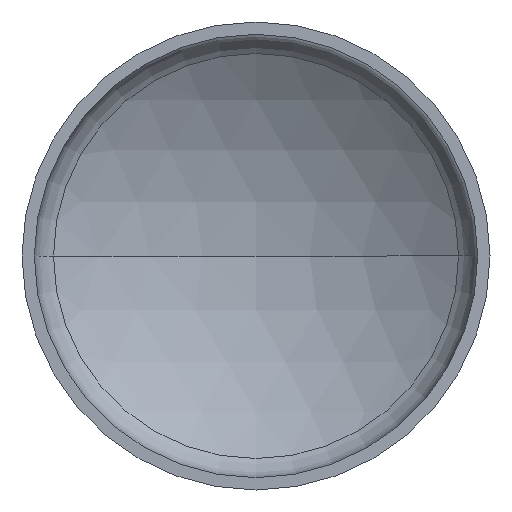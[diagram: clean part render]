
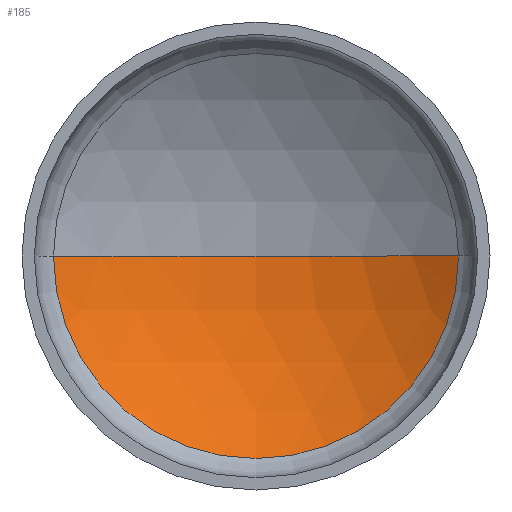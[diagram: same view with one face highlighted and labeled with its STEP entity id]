
A CAD part, front view. The second image highlights one B-rep face of the part: STEP entity #185.
In plain terms, the highlighted spherical face has radius 56.88 mm.
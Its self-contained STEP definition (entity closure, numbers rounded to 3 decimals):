
#1 = VERTEX_POINT ( 'NONE', #293 ) ;
#8 = DIRECTION ( 'NONE',  ( -1., 0., 0. ) ) ;
#9 = CARTESIAN_POINT ( 'NONE',  ( 0., 17., 0. ) ) ;
#43 = DIRECTION ( 'NONE',  ( 0., 0., 1. ) ) ;
#45 = AXIS2_PLACEMENT_3D ( 'NONE', #331, #43, #48 ) ;
#48 = DIRECTION ( 'NONE',  ( 1., 0., 0. ) ) ;
#50 = DIRECTION ( 'NONE',  ( -1., 0., 0. ) ) ;
#55 = CARTESIAN_POINT ( 'NONE',  ( 0., -39.88, 0. ) ) ;
#65 = EDGE_CURVE ( 'NONE', #1, #261, #243, .T. ) ;
#73 = CARTESIAN_POINT ( 'NONE',  ( 0., -39.88, 0. ) ) ;
#85 = AXIS2_PLACEMENT_3D ( 'NONE', #73, #266, #206 ) ;
#113 = DIRECTION ( 'NONE',  ( 0., 1., 0. ) ) ;
#114 = EDGE_CURVE ( 'NONE', #263, #261, #312, .T. ) ;
#127 = EDGE_CURVE ( 'NONE', #263, #1, #265, .T. ) ;
#131 = ORIENTED_EDGE ( 'NONE', *, *, #127, .F. ) ;
#179 = CARTESIAN_POINT ( 'NONE',  ( 32.928, 6.5, 0. ) ) ;
#185 = ADVANCED_FACE ( 'NONE', ( #280 ), #217, .F. ) ;
#206 = DIRECTION ( 'NONE',  ( -1., 0., 0. ) ) ;
#217 = SPHERICAL_SURFACE ( 'NONE', #375, 56.88 ) ;
#230 = ORIENTED_EDGE ( 'NONE', *, *, #65, .F. ) ;
#242 = CARTESIAN_POINT ( 'NONE',  ( 0., 6.5, 0. ) ) ;
#243 = CIRCLE ( 'NONE', #85, 56.88 ) ;
#261 = VERTEX_POINT ( 'NONE', #9 ) ;
#263 = VERTEX_POINT ( 'NONE', #179 ) ;
#265 = CIRCLE ( 'NONE', #327, 32.928 ) ;
#266 = DIRECTION ( 'NONE',  ( 0., 0., -1. ) ) ;
#275 = DIRECTION ( 'NONE',  ( 0., 0., 1. ) ) ;
#280 = FACE_OUTER_BOUND ( 'NONE', #335, .T. ) ;
#293 = CARTESIAN_POINT ( 'NONE',  ( -32.928, 6.5, 0. ) ) ;
#312 = CIRCLE ( 'NONE', #45, 56.88 ) ;
#327 = AXIS2_PLACEMENT_3D ( 'NONE', #242, #113, #8 ) ;
#331 = CARTESIAN_POINT ( 'NONE',  ( 0., -39.88, 0. ) ) ;
#335 = EDGE_LOOP ( 'NONE', ( #131, #390, #230 ) ) ;
#375 = AXIS2_PLACEMENT_3D ( 'NONE', #55, #275, #50 ) ;
#390 = ORIENTED_EDGE ( 'NONE', *, *, #114, .T. ) ;
